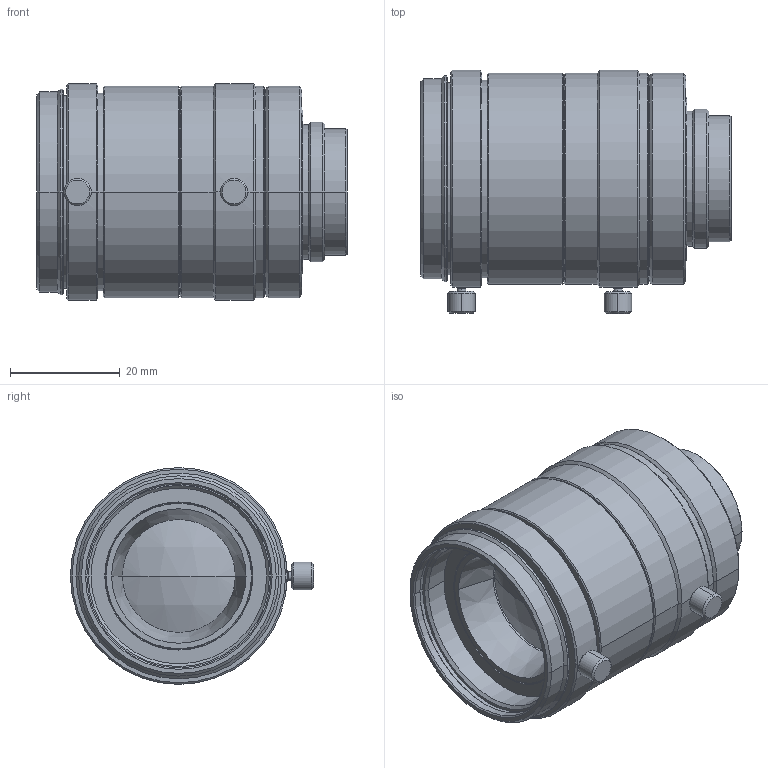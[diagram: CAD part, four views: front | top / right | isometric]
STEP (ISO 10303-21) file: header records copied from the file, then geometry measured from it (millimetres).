
FILE_DESCRIPTION (( 'STEP AP214' ), '1' );
FILE_NAME ('VS-HVA3522.STEP', '2022-02-09T08:54:41', ( '' ), ( '' ), 'SwSTEP 2.0', 'SolidWorks 2021', '' );
FILE_SCHEMA (( 'AUTOMOTIVE_DESIGN' ));
Length unit declared in the file: millimetre
Products named in the file (1): VS-HVA3522
Bounding box: 56.5 x 44.3 x 39.5 mm (x, y, z)
Volume: 51332.2 mm3; surface area: 11358.3 mm2
Topology: 1 solids, 1 shells, 141 faces, 286 edges, 166 vertices
Faces by surface type: cone 68, cylinder 48, plane 21, sphere 4
Entity records: 3754 total; most frequent: DIRECTION 722, CARTESIAN_POINT 662, ORIENTED_EDGE 572, AXIS2_PLACEMENT_3D 302, EDGE_CURVE 286, VERTEX_POINT 166, CIRCLE 160, EDGE_LOOP 160
